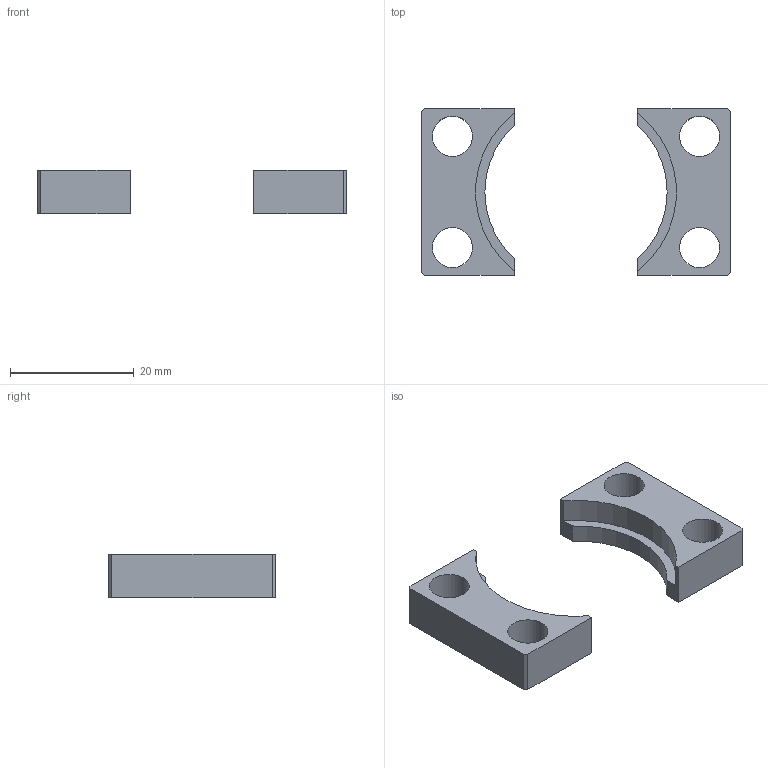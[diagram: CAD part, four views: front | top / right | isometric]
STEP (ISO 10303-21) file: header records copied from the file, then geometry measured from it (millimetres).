
FILE_DESCRIPTION(/* description */ (''),/* implementation_level */ '2;1');
FILE_NAME(/* name */ 'PNB-32-032.stp',/* time_stamp */ '2025-05-08T15:16:53-03:00',/* author */ ('jefferson'),/* organization */ (''),/* preprocessor_version */ 'ST-DEVELOPER v20',/* originating_system */ 'Autodesk Inventor 2025',/* authorisation */ '');
FILE_SCHEMA (('AUTOMOTIVE_DESIGN { 1 0 10303 214 3 1 1 }'));
Length unit declared in the file: millimetre
Products named in the file (1): PNB-32-032
Bounding box: 50 x 27 x 7 mm (x, y, z)
Volume: 3416.1 mm3; surface area: 2861.4 mm2
Topology: 2 solids, 2 shells, 200 faces, 546 edges, 364 vertices
Faces by surface type: plane 98, bspline 94, cylinder 8
Full cylindrical faces by diameter (mm): 6.5 x4
Entity records: 6828 total; most frequent: CARTESIAN_POINT 2333, ORIENTED_EDGE 1092, DIRECTION 588, EDGE_CURVE 546, VERTEX_POINT 364, LINE 342, VECTOR 342, EDGE_LOOP 222
